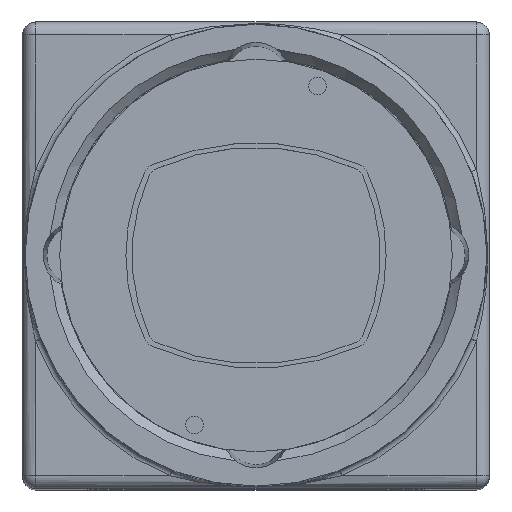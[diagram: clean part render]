
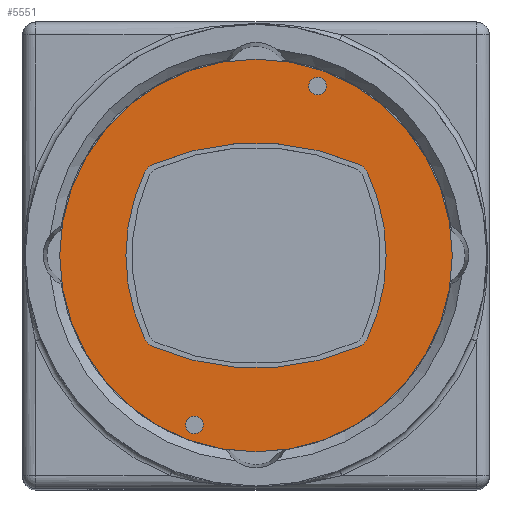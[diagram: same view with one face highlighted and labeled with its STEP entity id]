
A CAD part, top view. The second image highlights one B-rep face of the part: STEP entity #5551.
In plain terms, the highlighted planar face has unit normal (0, 0, 1).
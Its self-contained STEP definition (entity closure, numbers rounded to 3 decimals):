
#5551 = ADVANCED_FACE( '', ( #12061, #12062, #12063, #12064 ), #12065, .F. );
#12061 = FACE_OUTER_BOUND( '', #21198, .T. );
#12062 = FACE_BOUND( '', #21199, .T. );
#12063 = FACE_BOUND( '', #21200, .T. );
#12064 = FACE_BOUND( '', #21201, .T. );
#12065 = PLANE( '', #21202 );
#21198 = EDGE_LOOP( '', ( #38276 ) );
#21199 = EDGE_LOOP( '', ( #38277, #38278, #38279, #38280, #38281, #38282, #38283, #38284 ) );
#21200 = EDGE_LOOP( '', ( #38285 ) );
#21201 = EDGE_LOOP( '', ( #38286 ) );
#21202 = AXIS2_PLACEMENT_3D( '', #38287, #38288, #38289 );
#38276 = ORIENTED_EDGE( '', *, *, #50090, .F. );
#38277 = ORIENTED_EDGE( '', *, *, #45192, .T. );
#38278 = ORIENTED_EDGE( '', *, *, #43891, .T. );
#38279 = ORIENTED_EDGE( '', *, *, #50346, .T. );
#38280 = ORIENTED_EDGE( '', *, *, #48587, .T. );
#38281 = ORIENTED_EDGE( '', *, *, #49429, .T. );
#38282 = ORIENTED_EDGE( '', *, *, #50347, .T. );
#38283 = ORIENTED_EDGE( '', *, *, #48836, .T. );
#38284 = ORIENTED_EDGE( '', *, *, #45810, .T. );
#38285 = ORIENTED_EDGE( '', *, *, #50348, .F. );
#38286 = ORIENTED_EDGE( '', *, *, #50349, .T. );
#38287 = CARTESIAN_POINT( '', ( 1.907, 5.239, 5.8 ) );
#38288 = DIRECTION( '', ( 0., 0., -1. ) );
#38289 = DIRECTION( '', ( -1., 0., 0. ) );
#43891 = EDGE_CURVE( '', #51983, #51984, #51985, .T. );
#45192 = EDGE_CURVE( '', #54247, #51983, #54248, .T. );
#45810 = EDGE_CURVE( '', #55273, #54247, #55274, .T. );
#48587 = EDGE_CURVE( '', #59488, #59489, #59490, .T. );
#48836 = EDGE_CURVE( '', #59872, #55273, #59873, .T. );
#49429 = EDGE_CURVE( '', #59489, #60653, #60654, .T. );
#50090 = EDGE_CURVE( '', #61472, #61472, #61473, .T. );
#50346 = EDGE_CURVE( '', #51984, #59488, #61767, .T. );
#50347 = EDGE_CURVE( '', #60653, #59872, #61768, .T. );
#50348 = EDGE_CURVE( '', #61769, #61769, #61770, .T. );
#50349 = EDGE_CURVE( '', #61771, #61771, #61772, .T. );
#51983 = VERTEX_POINT( '', #63828 );
#51984 = VERTEX_POINT( '', #63829 );
#51985 = CIRCLE( '', #63830, 1. );
#54247 = VERTEX_POINT( '', #67316 );
#54248 = CIRCLE( '', #67317, 12. );
#55273 = VERTEX_POINT( '', #68933 );
#55274 = CIRCLE( '', #68934, 1. );
#59488 = VERTEX_POINT( '', #75768 );
#59489 = VERTEX_POINT( '', #75769 );
#59490 = CIRCLE( '', #75770, 1. );
#59872 = VERTEX_POINT( '', #76272 );
#59873 = CIRCLE( '', #76273, 16. );
#60653 = VERTEX_POINT( '', #77383 );
#60654 = CIRCLE( '', #77384, 12. );
#61472 = VERTEX_POINT( '', #78591 );
#61473 = CIRCLE( '', #78592, 12.2 );
#61767 = CIRCLE( '', #79008, 16. );
#61768 = CIRCLE( '', #79009, 1. );
#61769 = VERTEX_POINT( '', #79010 );
#61770 = CIRCLE( '', #79011, 0.55 );
#61771 = VERTEX_POINT( '', #79012 );
#61772 = CIRCLE( '', #79013, 0.55 );
#63828 = CARTESIAN_POINT( '', ( 6.916, -5.166, 5.8 ) );
#63829 = CARTESIAN_POINT( '', ( 6.414, -5.652, 5.8 ) );
#63830 = AXIS2_PLACEMENT_3D( '', #80838, #80839, #80840 );
#67316 = CARTESIAN_POINT( '', ( 6.916, 5.166, 5.8 ) );
#67317 = AXIS2_PLACEMENT_3D( '', #82447, #82448, #82449 );
#68933 = CARTESIAN_POINT( '', ( 6.414, 5.652, 5.8 ) );
#68934 = AXIS2_PLACEMENT_3D( '', #83162, #83163, #83164 );
#75768 = CARTESIAN_POINT( '', ( -6.414, -5.652, 5.8 ) );
#75769 = CARTESIAN_POINT( '', ( -6.916, -5.166, 5.8 ) );
#75770 = AXIS2_PLACEMENT_3D( '', #86302, #86303, #86304 );
#76272 = CARTESIAN_POINT( '', ( -6.414, 5.652, 5.8 ) );
#76273 = AXIS2_PLACEMENT_3D( '', #86713, #86714, #86715 );
#77383 = CARTESIAN_POINT( '', ( -6.916, 5.166, 5.8 ) );
#77384 = AXIS2_PLACEMENT_3D( '', #87348, #87349, #87350 );
#78591 = CARTESIAN_POINT( '', ( -12.2, 0., 5.8 ) );
#78592 = AXIS2_PLACEMENT_3D( '', #87999, #88000, #88001 );
#79008 = AXIS2_PLACEMENT_3D( '', #88217, #88218, #88219 );
#79009 = AXIS2_PLACEMENT_3D( '', #88220, #88221, #88222 );
#79010 = CARTESIAN_POINT( '', ( -3.281, -10.525, 5.8 ) );
#79011 = AXIS2_PLACEMENT_3D( '', #88223, #88224, #88225 );
#79012 = CARTESIAN_POINT( '', ( 4.381, 10.525, 5.8 ) );
#79013 = AXIS2_PLACEMENT_3D( '', #88226, #88227, #88228 );
#80838 = CARTESIAN_POINT( '', ( 6.013, -4.736, 5.8 ) );
#80839 = DIRECTION( '', ( 0., 0., -1. ) );
#80840 = DIRECTION( '', ( -1., 0., 0. ) );
#82447 = CARTESIAN_POINT( '', ( -3.915, 0., 5.8 ) );
#82448 = DIRECTION( '', ( 0., 0., -1. ) );
#82449 = DIRECTION( '', ( -1., 0., 0. ) );
#83162 = CARTESIAN_POINT( '', ( 6.013, 4.736, 5.8 ) );
#83163 = DIRECTION( '', ( 0., 0., -1. ) );
#83164 = DIRECTION( '', ( -1., 0., 0. ) );
#86302 = CARTESIAN_POINT( '', ( -6.013, -4.736, 5.8 ) );
#86303 = DIRECTION( '', ( 0., 0., -1. ) );
#86304 = DIRECTION( '', ( -1., 0., 0. ) );
#86713 = CARTESIAN_POINT( '', ( 0., -9.006, 5.8 ) );
#86714 = DIRECTION( '', ( 0., 0., -1. ) );
#86715 = DIRECTION( '', ( 1., 0., 0. ) );
#87348 = CARTESIAN_POINT( '', ( 3.915, 0., 5.8 ) );
#87349 = DIRECTION( '', ( 0., 0., -1. ) );
#87350 = DIRECTION( '', ( 1., 0., 0. ) );
#87999 = CARTESIAN_POINT( '', ( 0., 0., 5.8 ) );
#88000 = DIRECTION( '', ( 0., 0., -1. ) );
#88001 = DIRECTION( '', ( -1., 0., 0. ) );
#88217 = CARTESIAN_POINT( '', ( 0., 9.006, 5.8 ) );
#88218 = DIRECTION( '', ( 0., 0., -1. ) );
#88219 = DIRECTION( '', ( 1., 0., 0. ) );
#88220 = CARTESIAN_POINT( '', ( -6.013, 4.736, 5.8 ) );
#88221 = DIRECTION( '', ( 0., 0., -1. ) );
#88222 = DIRECTION( '', ( -1., 0., 0. ) );
#88223 = CARTESIAN_POINT( '', ( -3.831, -10.525, 5.8 ) );
#88224 = DIRECTION( '', ( 0., 0., 1. ) );
#88225 = DIRECTION( '', ( 1., 0., 0. ) );
#88226 = CARTESIAN_POINT( '', ( 3.831, 10.525, 5.8 ) );
#88227 = DIRECTION( '', ( 0., 0., -1. ) );
#88228 = DIRECTION( '', ( 1., 0., 0. ) );
